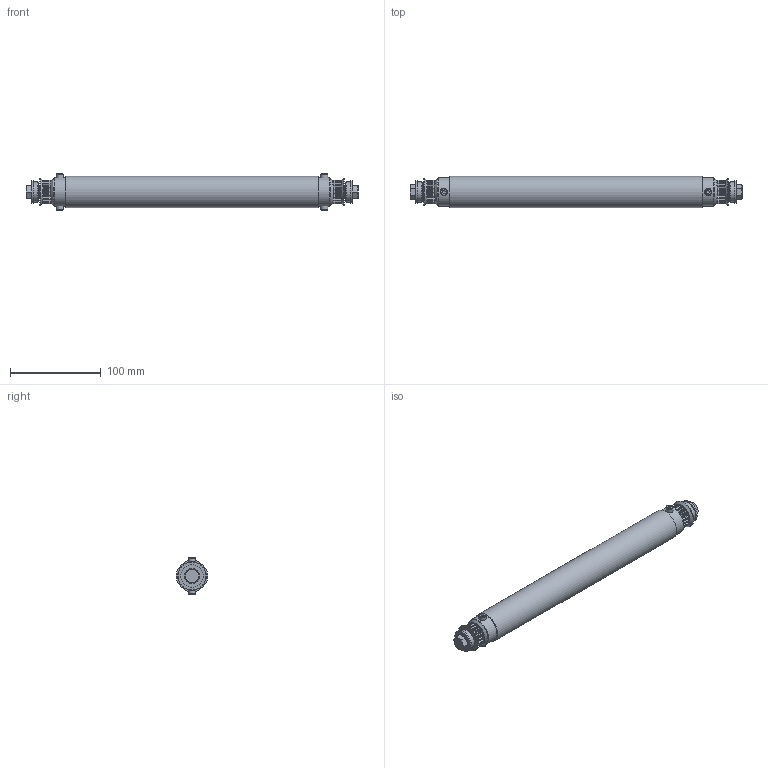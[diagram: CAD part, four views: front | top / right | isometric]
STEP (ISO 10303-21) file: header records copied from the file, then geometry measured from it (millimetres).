
FILE_DESCRIPTION(/* description */ ('STEP AP242 Edition 2','CAx-IF Rec.Pracs.---Representation and Presentation of Product Manufacturing Information (PMI)---4.0---2014-10-13','CAx-IF Rec.Pracs.---3D Tessellated Geometry---0.4---2014-09-14','2;1','CAx-IF Rec.Pracs.---User Defined Attributes---1.5---2016-08-15'),/* implementation_level */ '2;1');
FILE_NAME(/* name */ '69319d9d2aade48f1d454ab8',/* time_stamp */ '2025-12-04T14:41:33Z',/* author */ (''),/* organization */ (''),/* preprocessor_version */ 'ST-DEVELOPER v20',/* originating_system */ 'ONSHAPE BY PTC INC, 1.207',/* authorisation */ ' ');
FILE_SCHEMA (('AP242_MANAGED_MODEL_BASED_3D_ENGINEERING_MIM_LF { 1 0 10303 442 3 1 4 }'));
Length unit declared in the file: metre
Products named in the file (24): Tube (2x Dead Axle); am-5752 Polycarbonate Roller; am-5753 Silicone Tubing; Dead Axle Roller Assembly <2>; am-1359; am-1063 10-32 Nylock Jam Nut; 17T Dead Axle Roller Insert; am-1054 3/8-16 Nylock Nut; am-1623 3/8-16 2in; am-4463 <1>; am-4463 3-8 in ID 7-8 in OD Sealed Flanged Bearing FR62RS; Dead Axle Roller Assembly <1>
Assembly tree (44 placements, depth 4):
  Tube (2x Dead Axle)
    am-5752 Polycarbonate Roller
    am-5753 Silicone Tubing
    Dead Axle Roller Assembly <2>
      am-1359  x2
      am-1063 10-32 Nylock Jam Nut  x2
      17T Dead Axle Roller Insert
      am-1054 3/8-16 Nylock Nut
      am-1623 3/8-16 2in
      am-4463 <1>
        am-4463 3-8 in ID 7-8 in OD Sealed Flanged Bearing FR62RS
        am-4463 3-8 in ID 7-8 in OD Sealed Flanged Bearing FR62RS
        am-4463 3-8 in ID 7-8 in OD Sealed Flanged Bearing FR62RS
        am-4463 3-8 in ID 7-8 in OD Sealed Flanged Bearing FR62RS
        am-4463 3-8 in ID 7-8 in OD Sealed Flanged Bearing FR62RS
        am-4463 3-8 in ID 7-8 in OD Sealed Flanged Bearing FR62RS
        am-4463 3-8 in ID 7-8 in OD Sealed Flanged Bearing FR62RS
        am-4463 3-8 in ID 7-8 in OD Sealed Flanged Bearing FR62RS
        am-4463 3-8 in ID 7-8 in OD Sealed Flanged Bearing FR62RS
        am-4463 3-8 in ID 7-8 in OD Sealed Flanged Bearing FR62RS
        am-4463 3-8 in ID 7-8 in OD Sealed Flanged Bearing FR62RS
        am-4463 3-8 in ID 7-8 in OD Sealed Flanged Bearing FR62RS
    Dead Axle Roller Assembly <1>
      am-1359  x2
      am-1063 10-32 Nylock Jam Nut  x2
      17T Dead Axle Roller Insert
      am-1623 3/8-16 2in
      am-1054 3/8-16 Nylock Nut
      am-4463 <1>
        am-4463 3-8 in ID 7-8 in OD Sealed Flanged Bearing FR62RS
        am-4463 3-8 in ID 7-8 in OD Sealed Flanged Bearing FR62RS
        am-4463 3-8 in ID 7-8 in OD Sealed Flanged Bearing FR62RS
        am-4463 3-8 in ID 7-8 in OD Sealed Flanged Bearing FR62RS
        am-4463 3-8 in ID 7-8 in OD Sealed Flanged Bearing FR62RS
        am-4463 3-8 in ID 7-8 in OD Sealed Flanged Bearing FR62RS
        am-4463 3-8 in ID 7-8 in OD Sealed Flanged Bearing FR62RS
        am-4463 3-8 in ID 7-8 in OD Sealed Flanged Bearing FR62RS
        am-4463 3-8 in ID 7-8 in OD Sealed Flanged Bearing FR62RS
        am-4463 3-8 in ID 7-8 in OD Sealed Flanged Bearing FR62RS
        am-4463 3-8 in ID 7-8 in OD Sealed Flanged Bearing FR62RS
        am-4463 3-8 in ID 7-8 in OD Sealed Flanged Bearing FR62RS
Bounding box: 366.71 x 34.54 x 40.57 mm (x, y, z)
Volume: 133981.5 mm3; surface area: 147063.5 mm2
Topology: 40 solids, 40 shells, 962 faces, 2380 edges, 1484 vertices
Faces by surface type: cylinder 378, plane 332, cone 208, torus 20, sphere 20, bspline 4
Full cylindrical faces by diameter (mm): 4.178 x12, 4.826 x20, 5.105 x8, 6.08 x4, 7.938 x4, 8.236 x10, 9.525 x44, 9.804 x2, 12.7 x2, 14.549 x8, 17.201 x8, 22.225 x2, 25.019 x2, 28.575 x3, 30.913 x4, 31.75 x2, 34.544 x1
Entity records: 14106 total; most frequent: CARTESIAN_POINT 4567, DIRECTION 1994, ORIENTED_EDGE 1652, AXIS2_PLACEMENT_3D 852, EDGE_CURVE 826, VERTEX_POINT 560, FACE_BOUND 522, EDGE_LOOP 511
